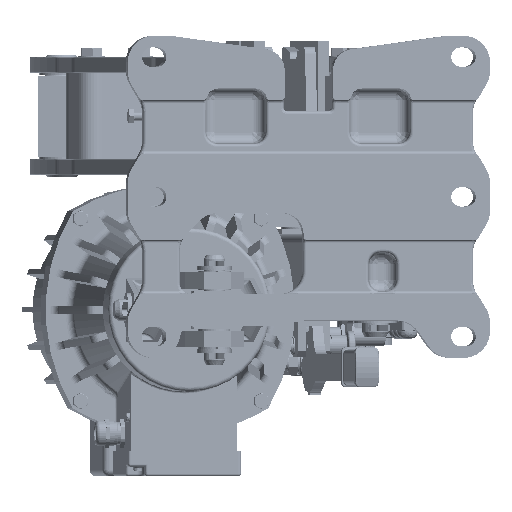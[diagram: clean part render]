
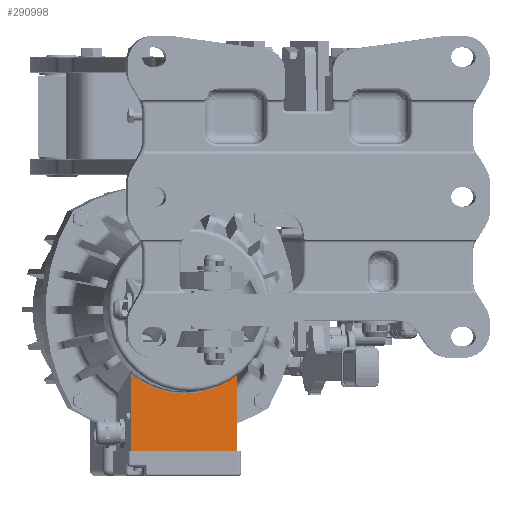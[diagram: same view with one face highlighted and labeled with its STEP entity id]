
A CAD part, front view. The second image highlights one B-rep face of the part: STEP entity #290998.
In plain terms, the highlighted planar face has unit normal (0.135, -0.991, 0).
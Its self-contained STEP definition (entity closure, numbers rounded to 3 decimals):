
#33487=DIRECTION('',(0.991,0.135,0.));
#33488=VECTOR('',#33487,78.701);
#33489=CARTESIAN_POINT('',(85.44,-316.46,-315.));
#33490=LINE('',#33489,#33488);
#33678=DIRECTION('',(0.991,0.135,0.));
#33679=VECTOR('',#33678,21.299);
#33680=CARTESIAN_POINT('',(64.337,-319.34,-315.));
#33681=LINE('',#33680,#33679);
#33791=DIRECTION('',(0.,0.,-1.));
#33792=VECTOR('',#33791,75.133);
#33793=CARTESIAN_POINT('',(64.337,-319.34,
-239.867));
#33794=LINE('',#33793,#33792);
#49169=CARTESIAN_POINT('',(113.877,-312.578,-180.));
#49170=DIRECTION('',(0.135,-0.991,0.));
#49171=DIRECTION('',(-0.635,-0.087,-0.768));
#49172=AXIS2_PLACEMENT_3D('',#49169,#49170,#49171);
#49177=DIRECTION('',(0.,0.,-1.));
#49178=VECTOR('',#49177,75.133);
#49179=CARTESIAN_POINT('',(163.418,-305.817,
-239.867));
#49180=LINE('',#49179,#49178);
#227446=CARTESIAN_POINT('',(64.337,-319.34,
-239.867));
#227447=CARTESIAN_POINT('',(163.418,-305.817,
-239.867));
#227448=VERTEX_POINT('',#227446);
#227449=VERTEX_POINT('',#227447);
#227453=CARTESIAN_POINT('',(64.337,-319.34,-315.));
#227454=CARTESIAN_POINT('',(85.44,-316.46,-315.));
#227455=VERTEX_POINT('',#227453);
#227456=VERTEX_POINT('',#227454);
#227457=CARTESIAN_POINT('',(163.418,-305.817,-315.));
#227458=VERTEX_POINT('',#227457);
#290986=CARTESIAN_POINT('',(163.418,-305.817,-315.));
#290987=DIRECTION('',(0.135,-0.991,0.));
#290988=DIRECTION('',(-0.991,-0.135,0.));
#290989=AXIS2_PLACEMENT_3D('',#290986,#290987,#290988);
#290990=PLANE('',#290989);
#290991=ORIENTED_EDGE('',*,*,#272980,.F.);
#290992=ORIENTED_EDGE('',*,*,#273020,.F.);
#290993=ORIENTED_EDGE('',*,*,#290966,.T.);
#290994=ORIENTED_EDGE('',*,*,#272819,.T.);
#290995=ORIENTED_EDGE('',*,*,#272861,.F.);
#290996=EDGE_LOOP('',(#290991,#290992,#290993,#290994,#290995));
#290997=FACE_OUTER_BOUND('',#290996,.F.);
#290998=ADVANCED_FACE('',(#290997),#290990,.T.);
#49173=CIRCLE('',#49172,78.);
#272819=EDGE_CURVE('',#227449,#227458,#49180,.T.);
#272861=EDGE_CURVE('',#227456,#227458,#33490,.T.);
#272980=EDGE_CURVE('',#227455,#227456,#33681,.T.);
#273020=EDGE_CURVE('',#227448,#227455,#33794,.T.);
#290966=EDGE_CURVE('',#227448,#227449,#49173,.T.);
